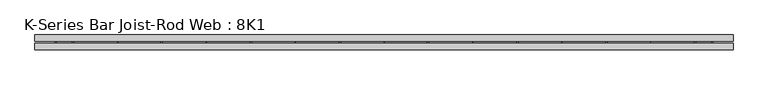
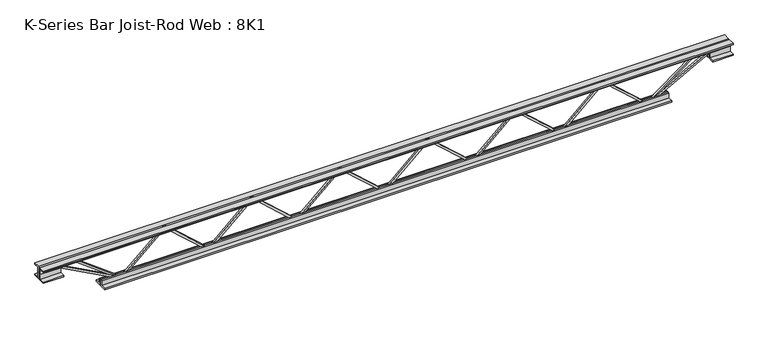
"""IFC4 building model written with IfcOpenShell, lengths in millimetres: beam geometry, K-Series Bar Joist-Rod Web : 8K1."""

from ifc_helpers import new_model, si_unit, frame, origin, place, context, project, spatial, polyline, outline, extrude, source, transform, mapped, element, save


def k_series_bar_joist_rod_web_8k1_279f3ebc(model_context):
    return source(origin(), model_context, "Body", "SweptSolid", [
        extrude(outline(polyline([(-90.4875, 437.278907), (-100.0125, 437.278907), (-100.0125, 442.2774605), (90.4875, 654.566914), (90.4875, 657.269807), (-100.0125, 869.5592605), (-100.0125, 874.557814), (-90.4875, 874.557814), (-90.4875, 873.2063675), (100.0125, 660.916914), (100.0125, 650.919807), (-90.4875, 438.6303535), (-90.4875, 437.278907)])), frame((0.0, -4.7625, 0.0), z_axis=(0.0, 1.0, 0.0), x_axis=(0.0, 0.0, 1.0)), (0.0, 0.0, 1.0), 9.525),
        extrude(outline(polyline([(-90.4875, 0.0), (-100.0125, 0.0), (-100.0125, 4.9985535), (90.4875, 217.288007), (90.4875, 219.9909), (-100.0125, 432.2803535), (-100.0125, 437.278907), (-90.4875, 437.278907), (-90.4875, 435.9274605), (100.0125, 223.638007), (100.0125, 213.6409), (-90.4875, 1.3514465), (-90.4875, 0.0)])), frame((0.0, -4.7625, 0.0), z_axis=(0.0, 1.0, 0.0), x_axis=(0.0, 0.0, 1.0)), (0.0, 0.0, 1.0), 9.525),
        extrude(outline(polyline([(-90.4875, -437.278907), (-100.0125, -437.278907), (-100.0125, -432.2803535), (90.4875, -219.9909), (90.4875, -217.288007), (-100.0125, -4.9985535), (-100.0125, 0.0), (-90.4875, 0.0), (-90.4875, -1.3514465), (100.0125, -213.6409), (100.0125, -223.638007), (-90.4875, -435.9274605), (-90.4875, -437.278907)])), frame((0.0, -4.7625, 0.0), z_axis=(0.0, 1.0, 0.0), x_axis=(0.0, 0.0, 1.0)), (0.0, 0.0, 1.0), 9.525),
        extrude(outline(polyline([(-90.4875, -874.557814), (-100.0125, -874.557814), (-100.0125, -869.5592605), (90.4875, -657.269807), (90.4875, -654.566914), (-100.0125, -442.2774605), (-100.0125, -437.278907), (-90.4875, -437.278907), (-90.4875, -438.6303535), (100.0125, -650.919807), (100.0125, -660.916914), (-90.4875, -873.2063675), (-90.4875, -874.557814)])), frame((0.0, -4.7625, 0.0), z_axis=(0.0, 1.0, 0.0), x_axis=(0.0, 0.0, 1.0)), (0.0, 0.0, 1.0), 9.525),
        extrude(outline(polyline([(-90.4875, 874.557814), (-100.0125, 874.557814), (-100.0125, 879.5563675), (90.4875, 1091.845821), (90.4875, 1094.548714), (-100.0125, 1306.8381675), (-100.0125, 1311.836721), (-90.4875, 1311.836721), (-90.4875, 1310.4852745), (100.0125, 1098.195821), (100.0125, 1088.198714), (-90.4875, 875.9092605), (-90.4875, 874.557814)])), frame((0.0, -4.7625, 0.0), z_axis=(0.0, 1.0, 0.0), x_axis=(0.0, 0.0, 1.0)), (0.0, 0.0, 1.0), 9.525),
        extrude(outline(polyline([(-90.4875, -1311.836721), (-100.0125, -1311.836721), (-100.0125, -1306.8381675), (90.4875, -1094.548714), (90.4875, -1091.845821), (-100.0125, -879.5563675), (-100.0125, -874.557814), (-90.4875, -874.557814), (-90.4875, -875.9092605), (100.0125, -1088.198714), (100.0125, -1098.195821), (-90.4875, -1310.4852745), (-90.4875, -1311.836721)])), frame((0.0, -4.7625, 0.0), z_axis=(0.0, 1.0, 0.0), x_axis=(0.0, 0.0, 1.0)), (0.0, 0.0, 1.0), 9.525),
        extrude(outline(polyline([(4.7625, 101.6), (36.5125, 101.6), (36.5125, 95.25), (11.1125, 95.25), (11.1125, 69.85), (4.7625, 69.85), (4.7625, 101.6)])), frame((-1718.236721, 0.0, 0.0), z_axis=(1.0, 0.0, 0.0), x_axis=(0.0, 1.0, 0.0)), (0.0, 0.0, 1.0), 3436.473442),
        extrude(outline(polyline([(-4.7625, 101.6), (-4.7625, 69.85), (-11.1125, 69.85), (-11.1125, 95.25), (-36.5125, 95.25), (-36.5125, 101.6), (-4.7625, 101.6)])), frame((-1718.236721, 0.0, 0.0), z_axis=(1.0, 0.0, 0.0), x_axis=(0.0, 1.0, 0.0)), (0.0, 0.0, 1.0), 3436.473442),
        extrude(outline(polyline([(-4.7625, 38.1), (-36.5125, 38.1), (-36.5125, 44.45), (-11.1125, 44.45), (-11.1125, 69.85), (-4.7625, 69.85), (-4.7625, 38.1)])), frame((-1718.236721, 0.0, 0.0), z_axis=(1.0, 0.0, 0.0), x_axis=(0.0, 1.0, 0.0)), (0.0, 0.0, 1.0), 101.6),
        extrude(outline(polyline([(36.5125, 38.1), (4.7625, 38.1), (4.7625, 69.85), (11.1125, 69.85), (11.1125, 44.45), (36.5125, 44.45), (36.5125, 38.1)])), frame((-1718.236721, 0.0, 0.0), z_axis=(1.0, 0.0, 0.0), x_axis=(0.0, 1.0, 0.0)), (0.0, 0.0, 1.0), 101.6),
        extrude(outline(polyline([(4.7625, 38.1), (4.7625, 69.85), (11.1125, 69.85), (11.1125, 44.45), (36.5125, 44.45), (36.5125, 38.1), (4.7625, 38.1)])), frame((1616.636721, 0.0, 0.0), z_axis=(1.0, 0.0, 0.0), x_axis=(0.0, 1.0, 0.0)), (0.0, 0.0, 1.0), 101.6),
        extrude(outline(polyline([(-4.7625, 38.1), (-36.5125, 38.1), (-36.5125, 44.45), (-11.1125, 44.45), (-11.1125, 69.85), (-4.7625, 69.85), (-4.7625, 38.1)])), frame((1616.636721, 0.0, 0.0), z_axis=(1.0, 0.0, 0.0), x_axis=(0.0, 1.0, 0.0)), (0.0, 0.0, 1.0), 101.6),
        extrude(outline(polyline([(4.7625, -101.6), (4.7625, -69.85), (11.1125, -69.85), (11.1125, -95.25), (36.5125, -95.25), (36.5125, -101.6), (4.7625, -101.6)])), frame((-1413.436721, 0.0, 0.0), z_axis=(1.0, 0.0, 0.0), x_axis=(0.0, 1.0, 0.0)), (0.0, 0.0, 1.0), 2826.873442),
        extrude(outline(polyline([(-4.7625, -101.6), (-36.5125, -101.6), (-36.5125, -95.25), (-11.1125, -95.25), (-11.1125, -69.85), (-4.7625, -69.85), (-4.7625, -101.6)])), frame((-1413.436721, 0.0, 0.0), z_axis=(1.0, 0.0, 0.0), x_axis=(0.0, 1.0, 0.0)), (0.0, 0.0, 1.0), 2826.873442),
        extrude(outline(polyline([(0.0, -9.525), (0.0, 0.0), (346.6425392, 0.0), (346.6425392, -9.525), (0.0, -9.525)])), frame((-1618.9050195, 4.7625, 65.662372), z_axis=(0.47628314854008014, 0.0, 0.8792919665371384), x_axis=(0.8792919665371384, 0.0, -0.47628314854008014)), (0.0, 0.0, 1.0), 9.525),
        extrude(outline(polyline([(0.0, -9.525), (0.0, 0.0), (273.973029, 0.0), (273.973029, -9.525), (0.0, -9.525)])), frame((-1533.346124, 4.7625, 66.049369), z_axis=(0.6026140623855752, 0.0, 0.7980327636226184), x_axis=(0.7980327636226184, 0.0, -0.6026140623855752)), (0.0, 0.0, 1.0), 9.525),
        extrude(outline(polyline([(0.0, -9.525), (0.0, 0.0), (346.6425392, 0.0), (346.6425392, -9.525), (0.0, -9.525)])), frame((1618.9050195, -4.7625, 65.662372), z_axis=(-0.4762831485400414, 0.0, 0.8792919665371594), x_axis=(-0.8792919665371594, 0.0, -0.4762831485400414)), (0.0, 0.0, 1.0), 9.525),
        extrude(outline(polyline([(0.0, -9.525), (0.0, 0.0), (273.973029, 0.0), (273.973029, -9.525), (0.0, -9.525)])), frame((1533.346124, -4.7625, 66.049369), z_axis=(-0.602614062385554, 0.0, 0.7980327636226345), x_axis=(-0.7980327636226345, 0.0, -0.602614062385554)), (0.0, 0.0, 1.0), 9.525),
    ])


if __name__ == "__main__":
    model = new_model("IFC4")
    model_context = context("Model", 3, world=origin())
    ifc_project = project(units=[si_unit("LENGTHUNIT", "METRE", prefix="MILLI")], contexts=[model_context])
    site = spatial("IfcSite", under=ifc_project)
    building = spatial("IfcBuilding", under=site)
    placement = place(None, origin())
    k_series_bar_joist_rod_web_8k1_shape = k_series_bar_joist_rod_web_8k1_279f3ebc(model_context)
    element("IfcBeam", 1, ObjectType="K-Series Bar Joist-Rod Web : 8K1", at=placement, inside=building, context=model_context, shape_type="MappedRepresentation", body=[
        mapped(k_series_bar_joist_rod_web_8k1_shape, transform((0.0, 0.0, 0.0), x_axis=(1.0, 0.0, 0.0), y_axis=(0.0, 1.0, 0.0), z_axis=(0.0, 0.0, 1.0))),
    ])
    save(model, "model.ifc")
